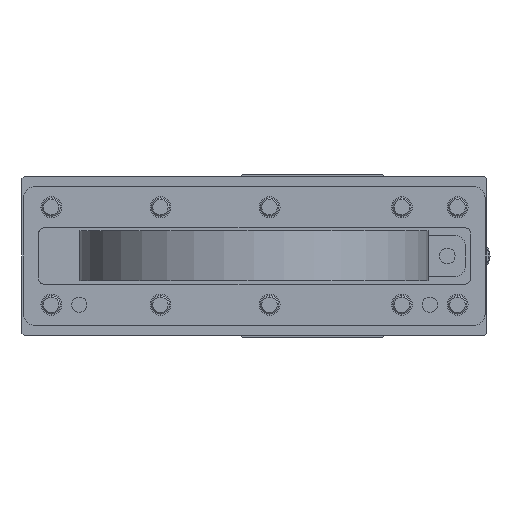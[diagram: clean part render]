
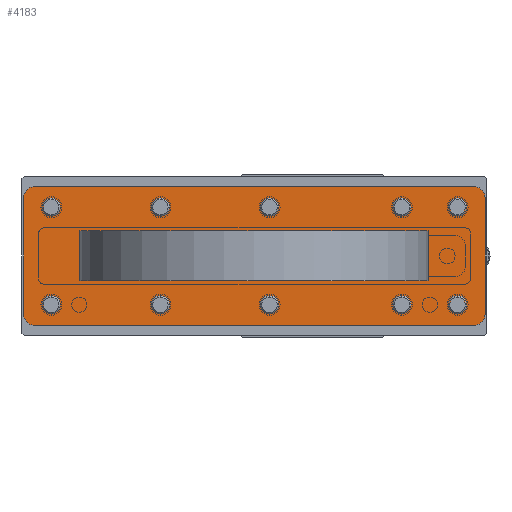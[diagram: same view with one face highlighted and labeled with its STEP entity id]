
A CAD part, front view. The second image highlights one B-rep face of the part: STEP entity #4183.
In plain terms, the highlighted planar face has unit normal (0, -1, 0).
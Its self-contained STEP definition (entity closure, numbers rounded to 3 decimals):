
#2220=LINE('',#11276,#2614);
#2222=LINE('',#11280,#2616);
#2226=LINE('',#11289,#2620);
#2232=LINE('',#11303,#2626);
#2614=VECTOR('',#9577,1.);
#2616=VECTOR('',#9581,1.);
#2620=VECTOR('',#9587,1.);
#2626=VECTOR('',#9595,1.);
#3743=PLANE('',#8929);
#3925=FACE_OUTER_BOUND('',#4936,.T.);
#4183=ADVANCED_FACE('',(#3925),#3743,.F.);
#4936=EDGE_LOOP('',(#5464,#5465,#5466,#5467,#5468,#5469,#5470,#5471));
#5464=ORIENTED_EDGE('',*,*,#7798,.F.);
#5465=ORIENTED_EDGE('',*,*,#7804,.T.);
#5466=ORIENTED_EDGE('',*,*,#7792,.F.);
#5467=ORIENTED_EDGE('',*,*,#7805,.T.);
#5468=ORIENTED_EDGE('',*,*,#7788,.F.);
#5469=ORIENTED_EDGE('',*,*,#7806,.T.);
#5470=ORIENTED_EDGE('',*,*,#7786,.F.);
#5471=ORIENTED_EDGE('',*,*,#7807,.T.);
#7148=VERTEX_POINT('',#11275);
#7149=VERTEX_POINT('',#11277);
#7150=VERTEX_POINT('',#11281);
#7151=VERTEX_POINT('',#11282);
#7154=VERTEX_POINT('',#11290);
#7155=VERTEX_POINT('',#11291);
#7160=VERTEX_POINT('',#11302);
#7161=VERTEX_POINT('',#11304);
#7786=EDGE_CURVE('',#7148,#7149,#2220,.T.);
#7788=EDGE_CURVE('',#7150,#7151,#2222,.T.);
#7792=EDGE_CURVE('',#7154,#7155,#2226,.T.);
#7798=EDGE_CURVE('',#7160,#7161,#2232,.T.);
#7804=EDGE_CURVE('',#7160,#7155,#8642,.T.);
#7805=EDGE_CURVE('',#7154,#7151,#8643,.T.);
#7806=EDGE_CURVE('',#7150,#7149,#8644,.T.);
#7807=EDGE_CURVE('',#7148,#7161,#8645,.T.);
#8642=CIRCLE('',#8925,5.);
#8643=CIRCLE('',#8926,5.);
#8644=CIRCLE('',#8927,5.);
#8645=CIRCLE('',#8928,5.);
#8925=AXIS2_PLACEMENT_3D('',#11312,#9609,#9610);
#8926=AXIS2_PLACEMENT_3D('',#11313,#9611,#9612);
#8927=AXIS2_PLACEMENT_3D('',#11314,#9613,#9614);
#8928=AXIS2_PLACEMENT_3D('',#11315,#9615,#9616);
#8929=AXIS2_PLACEMENT_3D('',#11316,#9617,#9618);
#9577=DIRECTION('',(0.,0.,1.));
#9581=DIRECTION('',(1.,0.,0.));
#9587=DIRECTION('',(0.,0.,-1.));
#9595=DIRECTION('',(-1.,0.,0.));
#9609=DIRECTION('',(0.,-1.,0.));
#9610=DIRECTION('',(0.,0.,1.));
#9611=DIRECTION('',(0.,-1.,0.));
#9612=DIRECTION('',(0.,0.,1.));
#9613=DIRECTION('',(0.,-1.,0.));
#9614=DIRECTION('',(0.,0.,1.));
#9615=DIRECTION('',(0.,-1.,0.));
#9616=DIRECTION('',(0.,0.,1.));
#9617=DIRECTION('',(0.,1.,0.));
#9618=DIRECTION('',(0.,0.,1.));
#11275=CARTESIAN_POINT('',(-99.375,0.,-25.));
#11276=CARTESIAN_POINT('',(-99.375,0.,-30.));
#11277=CARTESIAN_POINT('',(-99.375,0.,25.));
#11280=CARTESIAN_POINT('',(-99.375,0.,30.));
#11281=CARTESIAN_POINT('',(-94.375,0.,30.));
#11282=CARTESIAN_POINT('',(94.375,0.,30.));
#11289=CARTESIAN_POINT('',(99.375,0.,30.));
#11290=CARTESIAN_POINT('',(99.375,0.,25.));
#11291=CARTESIAN_POINT('',(99.375,0.,-25.));
#11302=CARTESIAN_POINT('',(94.375,0.,-30.));
#11303=CARTESIAN_POINT('',(99.375,0.,-30.));
#11304=CARTESIAN_POINT('',(-94.375,0.,-30.));
#11312=CARTESIAN_POINT('',(94.375,0.,-25.));
#11313=CARTESIAN_POINT('',(94.375,0.,25.));
#11314=CARTESIAN_POINT('',(-94.375,0.,25.));
#11315=CARTESIAN_POINT('',(-94.375,0.,-25.));
#11316=CARTESIAN_POINT('',(-99.375,0.,30.));
